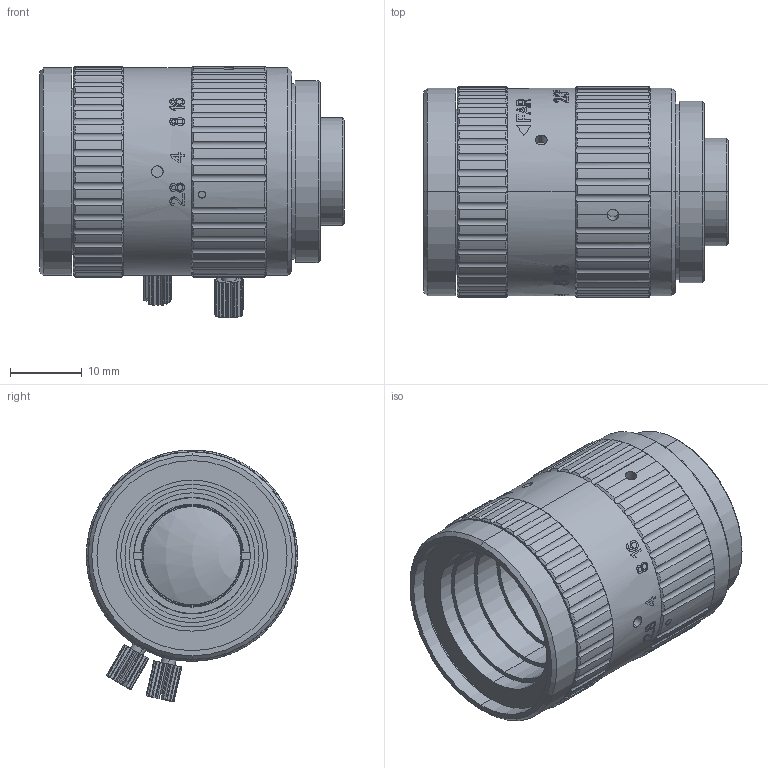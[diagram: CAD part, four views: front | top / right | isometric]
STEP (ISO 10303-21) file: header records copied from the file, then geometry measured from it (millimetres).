
FILE_DESCRIPTION((''),'2;1');
FILE_NAME('25MM000_ASM','2022-04-03T10:41:02',('Administrator'),(''),'CREO PARAMETRIC BY PTC INC, 2020053','CREO PARAMETRIC BY PTC INC, 2020053','');
FILE_SCHEMA(('CONFIG_CONTROL_DESIGN'));
Products named in the file (1): 25MM000_ASM
Bounding box: 42.57 x 29.5 x 35.2 mm (x, y, z)
Volume: 18851.7 mm3; surface area: 12208.5 mm2
Topology: 1 solids, 8 shells, 1204 faces, 3140 edges, 2023 vertices
Faces by surface type: cylinder 378, plane 342, bspline 247, cone 195, extrusion 37, sphere 5
Entity records: 52319 total; most frequent: CARTESIAN_POINT 24428, ORIENTED_EDGE 6270, DIRECTION 5032, EDGE_CURVE 3135, VERTEX_POINT 2023, AXIS2_PLACEMENT_3D 1837, VECTOR 1358, LINE 1321
